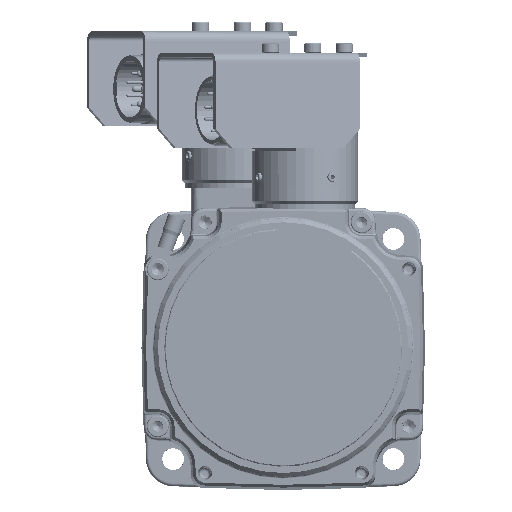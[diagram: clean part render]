
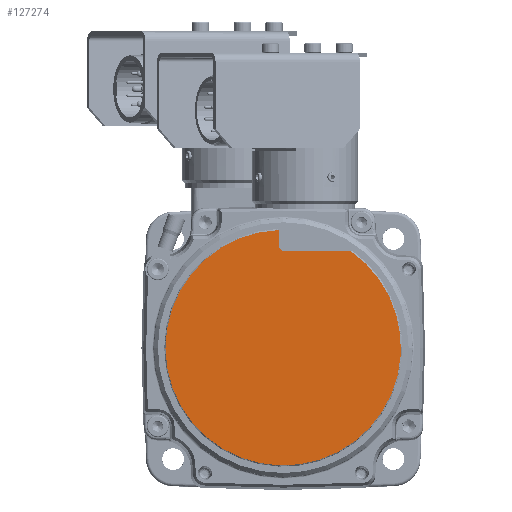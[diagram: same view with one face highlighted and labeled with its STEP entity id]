
A CAD part, top view. The second image highlights one B-rep face of the part: STEP entity #127274.
In plain terms, the highlighted planar face has unit normal (0, 0, 1).
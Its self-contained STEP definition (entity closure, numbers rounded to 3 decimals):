
#121075=CARTESIAN_POINT('',(-1.5,37.77,60.3));
#121077=CARTESIAN_POINT('',(0.,0.,60.3));
#121078=DIRECTION('',(0.,0.,-1.));
#121079=DIRECTION('',(0.572,0.82,0.));
#121080=AXIS2_PLACEMENT_3D('',#121077,#121078,#121079);
#121103=CARTESIAN_POINT('',(0.5,33.,60.3));
#121104=DIRECTION('',(0.,0.,-1.));
#121105=DIRECTION('',(0.,-1.,0.));
#121106=AXIS2_PLACEMENT_3D('',#121103,#121104,#121105);
#121125=DIRECTION('',(0.,-1.,0.));
#121126=VECTOR('',#121125,4.77);
#121127=CARTESIAN_POINT('',(-1.5,37.77,60.3));
#121128=LINE('',#121127,#121126);
#121129=DIRECTION('',(1.,0.,0.));
#121130=VECTOR('',#121129,21.13);
#121131=CARTESIAN_POINT('',(0.5,31.,60.3));
#121132=LINE('',#121131,#121130);
#122550=CARTESIAN_POINT('',(0.5,31.,60.3));
#122552=VERTEX_POINT('',#122550);
#122554=CARTESIAN_POINT('',(-1.5,33.,60.3));
#122556=VERTEX_POINT('',#122554);
#122570=VERTEX_POINT('',#121075);
#122571=CARTESIAN_POINT('',(21.63,31.,60.3));
#122572=VERTEX_POINT('',#122571);
#127263=CARTESIAN_POINT('',(0.,0.,60.3));
#127264=DIRECTION('',(0.,0.,1.));
#127265=DIRECTION('',(1.,0.,0.));
#127266=AXIS2_PLACEMENT_3D('',#127263,#127264,#127265);
#127267=PLANE('',#127266);
#127268=ORIENTED_EDGE('',*,*,#127211,.T.);
#127269=ORIENTED_EDGE('',*,*,#127229,.T.);
#127270=ORIENTED_EDGE('',*,*,#127241,.F.);
#127271=ORIENTED_EDGE('',*,*,#127254,.T.);
#127272=EDGE_LOOP('',(#127268,#127269,#127270,#127271));
#127273=FACE_OUTER_BOUND('',#127272,.F.);
#127274=ADVANCED_FACE('',(#127273),#127267,.T.);
#121081=CIRCLE('',#121080,37.8);
#121107=CIRCLE('',#121106,2.);
#127211=EDGE_CURVE('',#122572,#122570,#121081,.T.);
#127229=EDGE_CURVE('',#122570,#122556,#121128,.T.);
#127241=EDGE_CURVE('',#122552,#122556,#121107,.T.);
#127254=EDGE_CURVE('',#122552,#122572,#121132,.T.);
